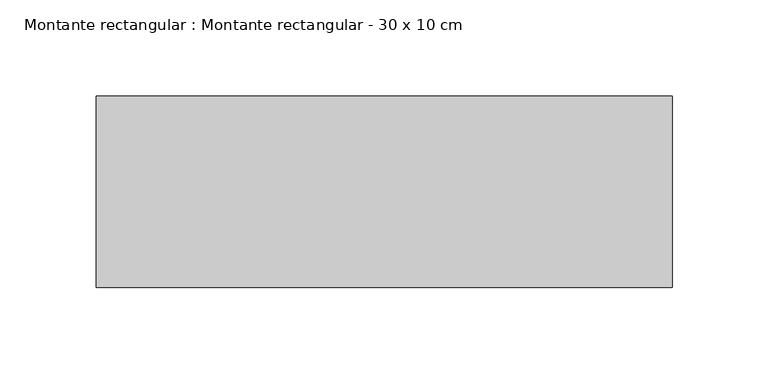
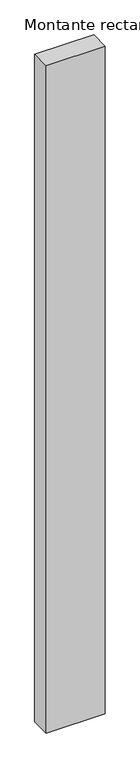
"""IFC4 building model written with IfcOpenShell, lengths in millimetres: member geometry, Montante rectangular : Montante rectangular - 30 x 10 cm."""

from ifc_helpers import new_model, si_unit, frame, origin, place, context, project, spatial, polyline, outline, extrude, source, transform, mapped, element, save


def montante_rectangular_montante_rectangular_30_x_10_cm_6eee1d13(model_context):
    return source(origin(), model_context, "Body", "SweptSolid", [
        extrude(outline(polyline([(-300.0, 50.0), (0.0, 50.0), (0.0, -50.0), (-300.0, -50.0), (-300.0, 50.0)])), frame((0.0, 0.0, -3577.9575859), z_axis=(0.0, 0.0, 1.0), x_axis=(1.0, 0.0, 0.0)), (0.0, 0.0, 1.0), 3577.9575859),
    ])


if __name__ == "__main__":
    model = new_model("IFC4")
    model_context = context("Model", 3, world=origin())
    ifc_project = project(units=[si_unit("LENGTHUNIT", "METRE", prefix="MILLI")], contexts=[model_context])
    site = spatial("IfcSite", under=ifc_project)
    building = spatial("IfcBuilding", under=site)
    placement = place(None, origin())
    montante_rectangular_montante_rectangular_30_x_10_cm_shape = montante_rectangular_montante_rectangular_30_x_10_cm_6eee1d13(model_context)
    element("IfcMember", 1, ObjectType="Montante rectangular : Montante rectangular - 30 x 10 cm", at=placement, inside=building, context=model_context, shape_type="MappedRepresentation", body=[
        mapped(montante_rectangular_montante_rectangular_30_x_10_cm_shape, transform((0.0, 0.0, 0.0), x_axis=(1.0, 0.0, 0.0), y_axis=(0.0, 1.0, 0.0), z_axis=(0.0, 0.0, 1.0))),
    ])
    save(model, "model.ifc")
